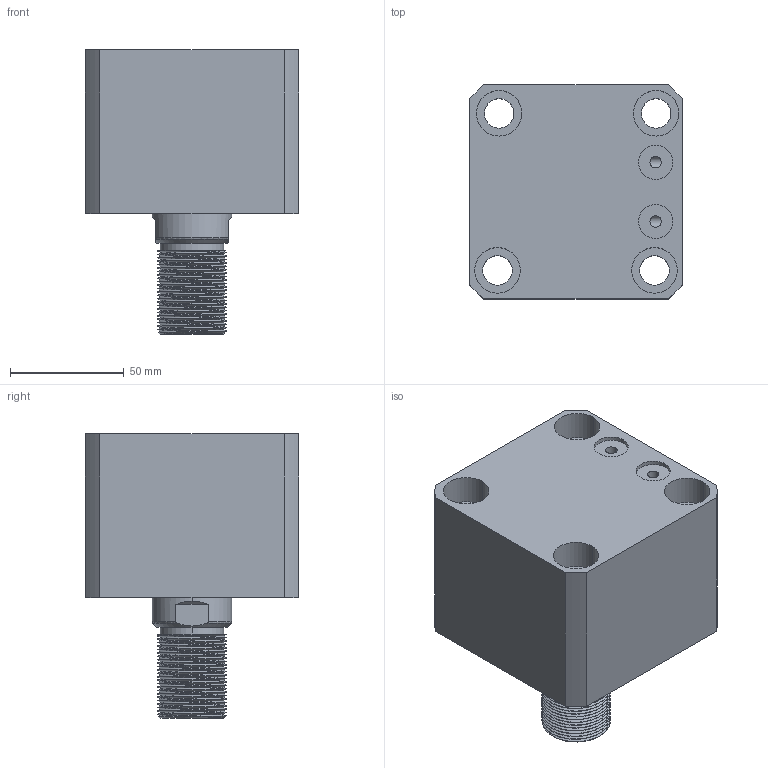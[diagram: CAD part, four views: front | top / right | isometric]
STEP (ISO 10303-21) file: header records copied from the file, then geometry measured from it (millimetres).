
FILE_DESCRIPTION (( 'STEP AP214' ), '1' );
FILE_NAME ('chtb-sdmb63x5w_asm.STEP', '2018-05-18T09:48:46', ( 'Windows' ), ( 'Microsoft' ), 'SwSTEP 2.0', 'SolidWorks 2015', '' );
FILE_SCHEMA (( 'AUTOMOTIVE_DESIGN' ));
Length unit declared in the file: millimetre
Products named in the file (4): CHTB-SDMB63X5NBT; CHTB63X5WHSG; CHTB-63QG; chtb-sdmb63x5w_asm
Assembly tree (3 placements, depth 2):
  chtb-sdmb63x5w_asm
    CHTB-63QG
    CHTB63X5WHSG
    CHTB-SDMB63X5NBT
Bounding box: 94 x 94 x 125 mm (x, y, z)
Volume: 600128.7 mm3; surface area: 111955 mm2
Topology: 3 solids, 3 shells, 218 faces, 628 edges, 427 vertices
Faces by surface type: cylinder 156, plane 33, bspline 14, cone 9, torus 6
Entity records: 22278 total; most frequent: CARTESIAN_POINT 17042, ORIENTED_EDGE 1248, DIRECTION 869, EDGE_CURVE 624, VERTEX_POINT 427, AXIS2_PLACEMENT_3D 339, EDGE_LOOP 251, ADVANCED_FACE 218
